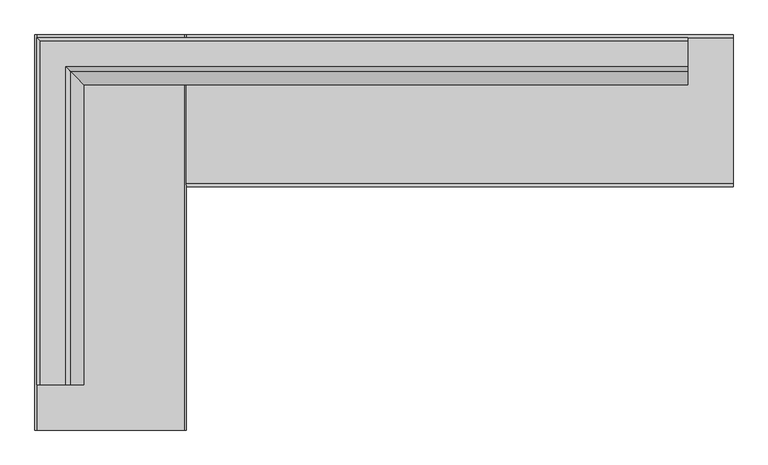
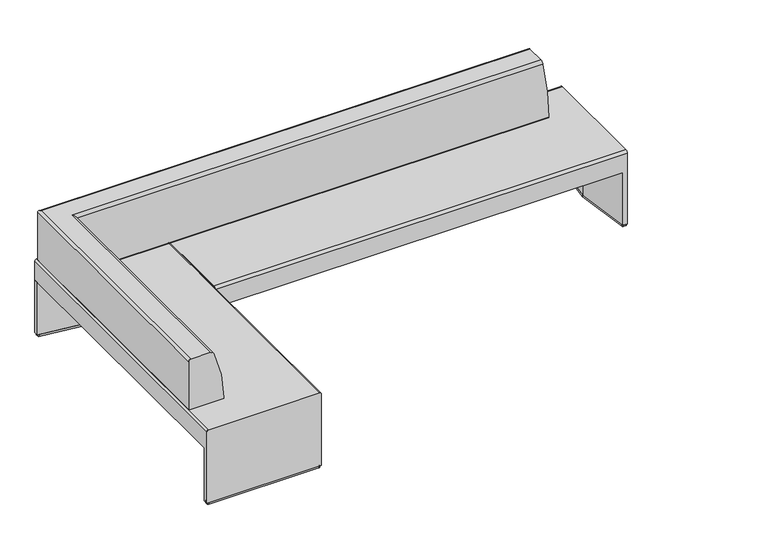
"""IFC4 building model written with IfcOpenShell, lengths in millimetres: furniture geometry, Steelcase Coalesse - Together  - Seating - Bench - Left Corner : 8in Back Offset - 69.75D x 123.25W."""

from ifc_helpers import new_model, si_unit, point, frame, frame_2d, origin, origin_with_axes, place, context, project, spatial, polyline, circle_curve, ellipse_curve, trimmed, segment, composite_curve, outline, extrude, source, transform, mapped, element, save
from ifc_brep_helpers import plane_surface, cylinder_surface, advanced_brep


def furniture_ffd907bb(model_context):
    return source(origin(), model_context, "Body", "SolidModel", [
        extrude(outline(composite_curve([segment(polyline([(2381.1760341, 342.7173042), (2424.8994541, 668.3404046)]), True, "CONTINUOUS"), segment(trimmed(circle_curve(frame_2d((2431.8678665, 667.4047129)), 7.0309522), [point((2424.8994541, 668.3404046))], [point((2431.8621236, 674.4356628))], False, "CARTESIAN"), True, "CONTINUOUS"), segment(polyline([(2431.8621236, 674.4356628), (2444.385141, 674.4458915)]), True, "CONTINUOUS"), segment(trimmed(circle_curve(frame_2d((2444.3903277, 668.0958937)), 6.35), [point((2444.385141, 674.4458915))], [point((2450.7403256, 668.1010803))], False, "CARTESIAN"), True, "CONTINUOUS"), segment(polyline([(2450.7403256, 668.1010803), (2451.2758418, 12.4700002)]), True, "CONTINUOUS"), segment(trimmed(circle_curve(frame_2d((2444.9258439, 12.4648135)), 6.35), [point((2451.2758418, 12.4700002))], [point((2444.9310305, 6.1148157))], False, "CARTESIAN"), True, "CONTINUOUS"), segment(polyline([(2444.9310305, 6.1148157), (2432.4737657, 6.1046406)]), True, "CONTINUOUS"), segment(trimmed(circle_curve(frame_2d((2432.4685791, 12.4546385)), 6.35), [point((2432.4737657, 6.1046406))], [point((2426.1764214, 11.5995062))], False, "CARTESIAN"), True, "CONTINUOUS"), segment(polyline([(2426.1764214, 11.5995062), (2381.1760341, 342.7173042)]), True, "CONTINUOUS")], self_intersect=False)), origin_with_axes(), (0.0, 0.0, 1.0), 12.7976677),
        extrude(outline(composite_curve([segment(polyline([(-342.242834, 610.6565573), (-667.8301127, 654.6459299)]), True, "CONTINUOUS"), segment(trimmed(circle_curve(frame_2d((-666.8887296, 661.6135757)), 7.0309522), [point((-667.8301127, 654.6459299))], [point((-673.9196818, 661.6135757))], False, "CARTESIAN"), True, "CONTINUOUS"), segment(polyline([(-673.9196818, 661.6135757), (-673.9196818, 674.1365973)]), True, "CONTINUOUS"), segment(trimmed(circle_curve(frame_2d((-667.5696818, 674.1365973)), 6.35), [point((-673.9196818, 674.1365973))], [point((-667.5696818, 680.4865973))], False, "CARTESIAN"), True, "CONTINUOUS"), segment(polyline([(-667.5696818, 680.4865973), (-11.938383, 680.4865973)]), True, "CONTINUOUS"), segment(trimmed(circle_curve(frame_2d((-11.938383, 674.1365973)), 6.35), [point((-11.938383, 680.4865973))], [point((-5.588383, 674.1365973))], False, "CARTESIAN"), True, "CONTINUOUS"), segment(polyline([(-5.588383, 674.1365973), (-5.588383, 661.6793283)]), True, "CONTINUOUS"), segment(trimmed(circle_curve(frame_2d((-11.938383, 661.6793283)), 6.35), [point((-5.588383, 661.6793283))], [point((-11.0883904, 655.3864742))], False, "CARTESIAN"), True, "CONTINUOUS"), segment(polyline([(-11.0883904, 655.3864742), (-342.242834, 610.6565573)]), True, "CONTINUOUS")], self_intersect=False)), origin_with_axes(), (0.0, 0.0, 1.0), 12.7976677),
        extrude(outline(composite_curve([segment(polyline([(-342.242834, -1020.6704812), (-11.0883904, -1065.4003981)]), True, "CONTINUOUS"), segment(trimmed(circle_curve(frame_2d((-11.938383, -1071.6932522)), 6.35), [point((-11.0883904, -1065.4003981))], [point((-5.588383, -1071.6932522))], False, "CARTESIAN"), True, "CONTINUOUS"), segment(polyline([(-5.588383, -1071.6932522), (-5.588383, -1084.1505212)]), True, "CONTINUOUS"), segment(trimmed(circle_curve(frame_2d((-11.938383, -1084.1505212)), 6.35), [point((-5.588383, -1084.1505212))], [point((-11.938383, -1090.5005212))], False, "CARTESIAN"), True, "CONTINUOUS"), segment(polyline([(-11.938383, -1090.5005212), (-667.5696818, -1090.5005212)]), True, "CONTINUOUS"), segment(trimmed(circle_curve(frame_2d((-667.5696818, -1084.1505212)), 6.35), [point((-667.5696818, -1090.5005212))], [point((-673.9196818, -1084.1505212))], False, "CARTESIAN"), True, "CONTINUOUS"), segment(polyline([(-673.9196818, -1084.1505212), (-673.9196818, -1071.6274996)]), True, "CONTINUOUS"), segment(trimmed(circle_curve(frame_2d((-666.8887296, -1071.6274996)), 7.0309522), [point((-673.9196818, -1071.6274996))], [point((-667.8301127, -1064.6598538))], False, "CARTESIAN"), True, "CONTINUOUS"), segment(polyline([(-667.8301127, -1064.6598538), (-342.242834, -1020.6704812)]), True, "CONTINUOUS")], self_intersect=False)), origin_with_axes(), (0.0, 0.0, 1.0), 12.7976677),
        advanced_brep(
        [(2451.2283223, 12.7, 471.2287949), (2451.2283223, 0.0, 458.5287949), (2451.2283223, 0.0, 12.7976677), (2451.2283223, 680.4865973, 12.7976677), (2451.2283223, 680.4865973, 458.5287949), (2451.2283223, 667.7865973, 471.2287949), (0.0, 12.7, 471.2287949), (0.0, 667.7865973, 471.2287949), (0.0, 680.4865973, 458.5287949), (0.0, 680.4865973, 343.3718099), (0.0, 0.0, 343.3718099), (0.0, 0.0, 458.5287949), (2425.0526241, 0.0, 343.3718099), (2425.0515424, 0.0, 12.7976677), (2425.3585944, 680.4865973, 343.3718099), (2380.7200419, 337.8527218, 343.3718099), (2425.3596556, 680.4865973, 12.7976677), (2380.7200419, 337.8527218, 12.7976677)],
        [
            (0, 1, circle_curve(frame((2451.2283223, 12.7, 458.5287949), z_axis=(1.0, 0.0, 0.0), x_axis=(0.0, -1.0, 0.0)), 12.7)),
            (1, 2),
            (2, 3),
            (3, 4),
            (4, 5, circle_curve(frame((2451.2283223, 667.7865973, 458.5287949), z_axis=(1.0, 0.0, 0.0), x_axis=(0.0, -1.0, 0.0)), 12.7)),
            (5, 0),
            (6, 7),
            (7, 8, circle_curve(frame((0.0, 667.7865973, 458.5287949), z_axis=(-1.0, 0.0, 0.0), x_axis=(0.0, -1.0, 0.0)), 12.7)),
            (8, 9),
            (9, 10),
            (10, 11),
            (11, 6, circle_curve(frame((0.0, 12.7, 458.5287949), z_axis=(-1.0, 0.0, 0.0), x_axis=(0.0, -1.0, 0.0)), 12.7)),
            (0, 6),
            (11, 1),
            (10, 12),
            (12, 13),
            (13, 2),
            (9, 14),
            (14, 15),
            (15, 12),
            (3, 16),
            (16, 14),
            (8, 4),
            (7, 5),
            (17, 16),
            (13, 17),
            (15, 17),
        ],
        [
            plane_surface(frame((2451.2283223, 0.0, 458.5287949), z_axis=(1.0, 0.0, 0.0), x_axis=(0.0, 0.0, -1.0))),
            plane_surface(frame((0.0, 0.0, 458.5287949), z_axis=(-1.0, 0.0, 0.0), x_axis=(0.0, 0.0, 1.0))),
            cylinder_surface(frame((0.0, 12.7, 458.5287949), z_axis=(1.0, 0.0, 0.0), x_axis=(0.0, -1.0, 0.0)), 12.7),
            plane_surface(frame((2451.2283223, 0.0, 458.5287949), z_axis=(0.0, -1.0, 0.0), x_axis=(-1.0, 0.0, 0.0))),
            plane_surface(frame((2451.2283223, 0.0, 343.3718099), z_axis=(0.0, 0.0, -1.0), x_axis=(-1.0, 0.0, 0.0))),
            plane_surface(frame((2451.2283223, 680.4865973, 343.3718099), z_axis=(0.0, 1.0, 0.0), x_axis=(-1.0, 0.0, 0.0))),
            cylinder_surface(frame((0.0, 667.7865973, 458.5287949), z_axis=(1.0, 0.0, 0.0), x_axis=(0.0, -1.0, 0.0)), 12.7),
            plane_surface(frame((2451.2283223, 667.7865973, 471.2287949), z_axis=(0.0, 0.0, 1.0), x_axis=(-1.0, 0.0, 0.0))),
            plane_surface(frame((2380.7200419, 337.8527218, 12.7976677), z_axis=(0.0, 0.0, -1.0), x_axis=(-0.13010336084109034, 0.9915004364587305, 0.0))),
            plane_surface(frame((2380.7200419, 337.8527218, 343.3718099), z_axis=(-0.9915004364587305, -0.13010336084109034, 0.0), x_axis=(0.0, 0.0, -1.0))),
            plane_surface(frame((2425.3596556, 680.4947435, 343.3718099), z_axis=(-0.9916200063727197, 0.1291888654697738, 0.0), x_axis=(0.0, 0.0, -1.0))),
        ],
        [
            (0, [[1, 2, 3, 4, 5, 6]]),
            (1, [[7, 8, 9, 10, 11, 12]]),
            (2, [[-1, 13, -12, 14]]),
            (3, [[-2, -14, -11, 15, 16, 17]]),
            (4, [[-10, 18, 19, 20, -15]]),
            (5, [[-4, 21, 22, -18, -9, 23]]),
            (6, [[-5, -23, -8, 24]]),
            (7, [[-6, -24, -7, -13]]),
            (8, [[25, -21, -3, -17, 26]]),
            (9, [[-26, -16, -20, 27]]),
            (10, [[-25, -27, -19, -22]]),
        ],
    ),
        advanced_brep(
        [(0.0, -1091.3836068, 462.8584293), (-8.3703656, -1091.3836068, 471.2287949), (-669.1616777, -1091.3836068, 471.2287949), (-679.3216777, -1091.3836068, 461.0687949), (-679.3216777, -1091.3836068, 12.7976677), (0.0, -1091.3836068, 12.7976677), (0.0, 680.2663932, 343.3718099), (-679.3216777, 680.2663932, 343.3718099), (-679.3216777, 680.2663932, 461.0687949), (-669.1616777, 680.2663932, 471.2287949), (-8.3703656, 680.2663932, 471.2287949), (0.0, 680.2663932, 462.8584293), (0.0, -1065.3918934, 12.7976677), (0.0, -1065.3918934, 343.3718099), (-679.3216777, -1065.3918934, 343.3718099), (-679.3216777, -1065.3918934, 12.7976677), (-337.6103648, -1020.9829621, 343.3718099), (-337.6103648, -1020.9829621, 12.7976677)],
        [
            (0, 1, circle_curve(frame((-8.3703656, -1091.3836068, 462.8584293), z_axis=(0.0, -1.0, 0.0), x_axis=(1.0, 0.0, 0.0)), 8.3703656)),
            (1, 2),
            (2, 3, circle_curve(frame((-669.1616777, -1091.3836068, 461.0687949), z_axis=(0.0, -1.0, 0.0), x_axis=(1.0, 0.0, 0.0)), 10.16)),
            (3, 4),
            (4, 5),
            (5, 0),
            (6, 7),
            (7, 8),
            (8, 9, circle_curve(frame((-669.1616777, 680.2663932, 461.0687949), z_axis=(0.0, 1.0, 0.0), x_axis=(1.0, 0.0, 0.0)), 10.16)),
            (9, 10),
            (10, 11, circle_curve(frame((-8.3703656, 680.2663932, 462.8584293), z_axis=(0.0, 1.0, 0.0), x_axis=(1.0, 0.0, 0.0)), 8.3703656)),
            (11, 6),
            (5, 12),
            (12, 13),
            (13, 6),
            (11, 0),
            (10, 1),
            (9, 2),
            (8, 3),
            (7, 14),
            (14, 15),
            (15, 4),
            (13, 16),
            (16, 14),
            (17, 12),
            (15, 17),
            (16, 17),
        ],
        [
            plane_surface(frame((0.0, -1091.3836068, 432.906134), z_axis=(0.0, -1.0, 0.0), x_axis=(0.0, 0.0, 1.0))),
            plane_surface(frame((0.0, 680.2663932, 432.906134), z_axis=(0.0, 1.0, 0.0), x_axis=(0.0, 0.0, -1.0))),
            plane_surface(frame((0.0, -1091.3836068, 343.3718099), z_axis=(1.0, 0.0, 0.0), x_axis=(0.0, 1.0, 0.0))),
            cylinder_surface(frame((-8.3703656, 680.2663932, 462.8584293), z_axis=(0.0, -1.0, 0.0), x_axis=(1.0, 0.0, 0.0)), 8.3703656),
            plane_surface(frame((-8.3703656, -1091.3836068, 471.2287949), z_axis=(0.0, 0.0, 1.0), x_axis=(0.0, 1.0, 0.0))),
            cylinder_surface(frame((-669.1616777, 680.2663932, 461.0687949), z_axis=(0.0, -1.0, 0.0), x_axis=(1.0, 0.0, 0.0)), 10.16),
            plane_surface(frame((-679.3216777, -1091.3836068, 461.0687949), z_axis=(-1.0, 0.0, 0.0), x_axis=(0.0, 1.0, 0.0))),
            plane_surface(frame((-679.3216777, -1091.3836068, 343.3718099), z_axis=(0.0, 0.0, -1.0), x_axis=(0.0, 1.0, 0.0))),
            plane_surface(frame((-679.3216777, -1065.3918934, 12.7976677), z_axis=(0.0, 0.0, -1.0), x_axis=(0.9916606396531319, 0.12887659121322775, 0.0))),
            plane_surface(frame((-337.6103648, -1020.9829621, 343.3718099), z_axis=(-0.12887659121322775, 0.9916606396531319, 0.0), x_axis=(0.0, 0.0, -1.0))),
            plane_surface(frame((0.0, -1065.3918934, 343.3718099), z_axis=(0.13041558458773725, 0.9914594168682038, 0.0), x_axis=(0.0, 0.0, -1.0))),
        ],
        [
            (0, [[1, 2, 3, 4, 5, 6]]),
            (1, [[7, 8, 9, 10, 11, 12]]),
            (2, [[-6, 13, 14, 15, -12, 16]]),
            (3, [[-1, -16, -11, 17]]),
            (4, [[-2, -17, -10, 18]]),
            (5, [[-3, -18, -9, 19]]),
            (6, [[-4, -19, -8, 20, 21, 22]]),
            (7, [[-7, -15, 23, 24, -20]]),
            (8, [[25, -13, -5, -22, 26]]),
            (9, [[-26, -21, -24, 27]]),
            (10, [[-25, -27, -23, -14]]),
        ],
    ),
        extrude(outline(polyline([(-337.6103648, 610.0859526), (-679.4232219, 654.5080806), (-679.4232219, 680.4865973), (0.0, 680.4865973), (0.0, 654.4948838), (-337.6103648, 610.0859526)])), frame((0.0, 0.0, 12.7976677), z_axis=(0.0, 0.0, 1.0), x_axis=(1.0, 0.0, 0.0)), (0.0, 0.0, 1.0), 330.5741422),
        advanced_brep(
        [(-542.7579952, -888.1836068, 789.6908243), (-654.9720681, -888.1836068, 789.6908243), (-670.6127132, -888.1836068, 774.0501793), (-670.6127132, -888.1836068, 471.9907949), (-669.8507132, -888.1836068, 471.2287949), (-467.2326916, -888.1836068, 471.2287949), (-460.8827115, -888.1836068, 477.5628851), (-521.8690853, -888.1836068, 775.9296487), (-542.7579952, 539.2094278, 789.6908243), (2248.0283223, 539.2094278, 789.6908243), (2248.0283223, 651.4235007, 789.6908243), (-654.9720681, 651.4235007, 789.6908243), (-670.6127132, 667.0641458, 774.0501793), (-670.6127132, 667.0641458, 471.9907949), (-669.8507132, 666.3021458, 471.2287949), (2248.0283223, 666.3021458, 471.2287949), (2248.0283223, 463.6841242, 471.2287949), (-467.2326916, 463.6841242, 471.2287949), (-460.8827115, 457.3341441, 477.5628851), (-521.8690853, 518.3205179, 775.9296487), (2248.0283223, 518.3205179, 775.9296487), (2248.0283223, 457.3341441, 477.5628851), (2248.0283223, 667.0641458, 471.9907949), (2248.0283223, 667.0641458, 774.0501793)],
        [
            (0, 1),
            (1, 2, circle_curve(frame((-654.9720681, -888.1836068, 774.0501793), z_axis=(0.0, -1.0, 0.0), x_axis=(-1.0, 0.0, 0.0)), 15.6406451)),
            (2, 3),
            (3, 4, circle_curve(frame((-669.8507132, -888.1836068, 471.9907949), z_axis=(0.0, -1.0, 0.0), x_axis=(-1.0, 0.0, 0.0)), 0.762)),
            (4, 5),
            (5, 6, circle_curve(frame((-467.2326916, -888.1836068, 477.5787949), z_axis=(0.0, -1.0, 0.0), x_axis=(-1.0, 0.0, 0.0)), 6.35)),
            (6, 7, circle_curve(frame((-1212.0260917, -888.1836068, 479.4448666), z_axis=(0.0, -1.0, 0.0), x_axis=(-1.0, 0.0, 0.0)), 751.1457378)),
            (7, 0, circle_curve(frame((-542.7579952, -888.1836068, 766.9559749), z_axis=(0.0, -1.0, 0.0), x_axis=(-1.0, 0.0, 0.0)), 22.7348495)),
            (0, 8),
            (8, 9),
            (9, 10),
            (10, 11),
            (11, 1),
            (11, 12, ellipse_curve(frame((-654.9720681, 651.4235007, 774.0501793), z_axis=(-0.7071067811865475, -0.7071067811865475, 0.0), x_axis=(0.7071067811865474, -0.7071067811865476, 0.0)), 22.1192124, 15.6406451)),
            (12, 2),
            (12, 13),
            (13, 3),
            (13, 14, ellipse_curve(frame((-669.8507132, 666.3021458, 471.9907949), z_axis=(-0.7071067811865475, -0.7071067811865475, 0.0), x_axis=(0.7071067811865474, -0.7071067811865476, 0.0)), 1.0776307, 0.762)),
            (14, 4),
            (14, 15),
            (15, 16),
            (16, 17),
            (17, 5),
            (17, 18, ellipse_curve(frame((-467.2326916, 463.6841242, 477.5787949), z_axis=(-0.7071067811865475, -0.7071067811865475, 0.0), x_axis=(0.7071067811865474, -0.7071067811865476, 0.0)), 8.9802561, 6.35)),
            (18, 6),
            (18, 19, ellipse_curve(frame((-1212.0260917, 1208.4775243, 479.4448666), z_axis=(-0.7071067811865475, -0.7071067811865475, 0.0), x_axis=(0.7071067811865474, -0.7071067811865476, 0.0)), 1062.2804897, 751.1457378)),
            (19, 7),
            (19, 8, ellipse_curve(frame((-542.7579952, 539.2094278, 766.9559749), z_axis=(-0.7071067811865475, -0.7071067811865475, 0.0), x_axis=(0.7071067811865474, -0.7071067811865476, 0.0)), 32.1519324, 22.7348495)),
            (9, 20, circle_curve(frame((2248.0283223, 539.2094278, 766.9559749), z_axis=(1.0, 0.0, 0.0), x_axis=(0.0, 1.0, 0.0)), 22.7348495)),
            (20, 21, circle_curve(frame((2248.0283223, 1208.4775243, 479.4448666), z_axis=(1.0, 0.0, 0.0), x_axis=(0.0, 1.0, 0.0)), 751.1457378)),
            (21, 16, circle_curve(frame((2248.0283223, 463.6841242, 477.5787949), z_axis=(1.0, 0.0, 0.0), x_axis=(0.0, 1.0, 0.0)), 6.35)),
            (15, 22, circle_curve(frame((2248.0283223, 666.3021458, 471.9907949), z_axis=(1.0, 0.0, 0.0), x_axis=(0.0, 1.0, 0.0)), 0.762)),
            (22, 23),
            (23, 10, circle_curve(frame((2248.0283223, 651.4235007, 774.0501793), z_axis=(1.0, 0.0, 0.0), x_axis=(0.0, 1.0, 0.0)), 15.6406451)),
            (23, 12),
            (22, 13),
            (21, 18),
            (20, 19),
        ],
        [
            plane_surface(frame((-460.0482755, -888.1836068, 0.0), z_axis=(0.0, -1.0, 0.0), x_axis=(0.0, 0.0, 1.0))),
            plane_surface(frame((-542.7579952, -888.1836068, 789.6908243), z_axis=(0.0, 0.0, 1.0), x_axis=(0.0, 1.0, 0.0))),
            cylinder_surface(frame((-654.9720681, -888.1836068, 774.0501793), z_axis=(0.0, -1.0, 0.0), x_axis=(-1.0, 0.0, 0.0)), 15.6406451),
            plane_surface(frame((-670.6127132, -888.1836068, 774.0501793), z_axis=(-1.0, 0.0, 0.0), x_axis=(0.0, 1.0, 0.0))),
            cylinder_surface(frame((-669.8507132, -888.1836068, 471.9907949), z_axis=(0.0, -1.0, 0.0), x_axis=(-1.0, 0.0, 0.0)), 0.762),
            plane_surface(frame((-669.8507132, -888.1836068, 471.2287949), z_axis=(0.0, 0.0, -1.0), x_axis=(0.0, 1.0, 0.0))),
            cylinder_surface(frame((-467.2326916, -888.1836068, 477.5787949), z_axis=(0.0, -1.0, 0.0), x_axis=(-1.0, 0.0, 0.0)), 6.35),
            cylinder_surface(frame((-1212.0260917, -888.1836068, 479.4448666), z_axis=(0.0, -1.0, 0.0), x_axis=(-1.0, 0.0, 0.0)), 751.1457378),
            cylinder_surface(frame((-542.7579952, -888.1836068, 766.9559749), z_axis=(0.0, -1.0, 0.0), x_axis=(-1.0, 0.0, 0.0)), 22.7348495),
            plane_surface(frame((2248.0283223, 456.4997081, 0.0), z_axis=(1.0, 0.0, 0.0), x_axis=(0.0, 0.0, 1.0))),
            cylinder_surface(frame((-460.0482755, 651.4235007, 774.0501793), z_axis=(-1.0, 0.0, 0.0), x_axis=(0.0, 1.0, 0.0)), 15.6406451),
            plane_surface(frame((-670.6127132, 667.0641458, 774.0501793), z_axis=(0.0, 1.0, 0.0), x_axis=(1.0, 0.0, 0.0))),
            cylinder_surface(frame((-460.0482755, 666.3021458, 471.9907949), z_axis=(-1.0, 0.0, 0.0), x_axis=(0.0, 1.0, 0.0)), 0.762),
            cylinder_surface(frame((-460.0482755, 463.6841242, 477.5787949), z_axis=(-1.0, 0.0, 0.0), x_axis=(0.0, 1.0, 0.0)), 6.35),
            cylinder_surface(frame((-460.0482755, 1208.4775243, 479.4448666), z_axis=(-1.0, 0.0, 0.0), x_axis=(0.0, 1.0, 0.0)), 751.1457378),
            cylinder_surface(frame((-460.0482755, 539.2094278, 766.9559749), z_axis=(-1.0, 0.0, 0.0), x_axis=(0.0, 1.0, 0.0)), 22.7348495),
        ],
        [
            (0, [[1, 2, 3, 4, 5, 6, 7, 8]]),
            (1, [[-1, 9, 10, 11, 12, 13]]),
            (2, [[-2, -13, 14, 15]]),
            (3, [[-3, -15, 16, 17]]),
            (4, [[-4, -17, 18, 19]]),
            (5, [[-5, -19, 20, 21, 22, 23]]),
            (6, [[-6, -23, 24, 25]]),
            (7, [[-7, -25, 26, 27]]),
            (8, [[-8, -27, 28, -9]]),
            (9, [[29, 30, 31, -21, 32, 33, 34, -11]]),
            (10, [[-14, -12, -34, 35]]),
            (11, [[-16, -35, -33, 36]]),
            (12, [[-18, -36, -32, -20]]),
            (13, [[-24, -22, -31, 37]]),
            (14, [[-26, -37, -30, 38]]),
            (15, [[-28, -38, -29, -10]]),
        ],
    ),
    ])


if __name__ == "__main__":
    model = new_model("IFC4")
    model_context = context("Model", 3, world=origin())
    ifc_project = project(units=[si_unit("LENGTHUNIT", "METRE", prefix="MILLI")], contexts=[model_context])
    site = spatial("IfcSite", under=ifc_project)
    building = spatial("IfcBuilding", under=site)
    placement = place(None, origin())
    furniture_shape = furniture_ffd907bb(model_context)
    element("IfcFurniture", 1, ObjectType="Steelcase Coalesse - Together  - Seating - Bench - Left Corner : 8in Back Offset - 69.75D x 123.25W", at=placement, inside=building, context=model_context, shape_type="MappedRepresentation", body=[
        mapped(furniture_shape, transform((0.0, 0.0, 0.0), x_axis=(1.0, 0.0, 0.0), y_axis=(0.0, 1.0, 0.0), z_axis=(0.0, 0.0, 1.0))),
    ])
    save(model, "model.ifc")
